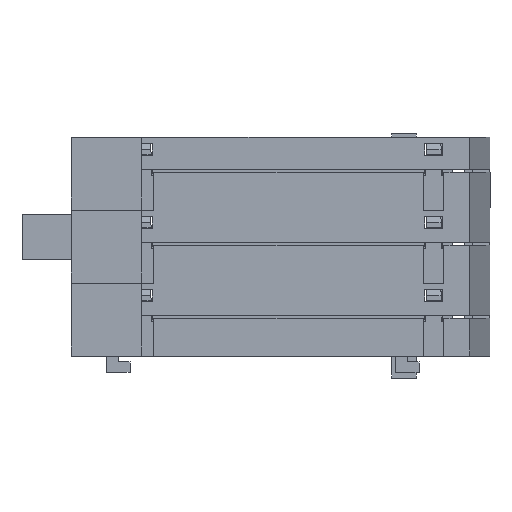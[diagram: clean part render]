
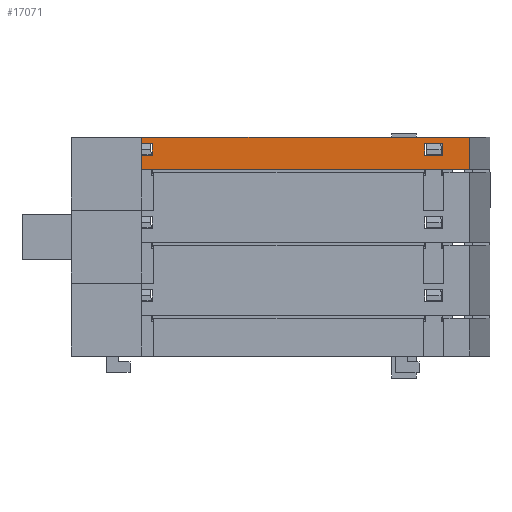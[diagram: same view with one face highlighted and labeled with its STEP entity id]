
A CAD part, left-side view. The second image highlights one B-rep face of the part: STEP entity #17071.
In plain terms, the highlighted planar face has unit normal (-1, 0, 0) as drawn and (0, -1, 0) by its records, which use the part's own axes.
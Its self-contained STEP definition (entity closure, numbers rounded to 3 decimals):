
#72 = VECTOR ( 'NONE', #6909, 1000. ) ;
#201 = VERTEX_POINT ( 'NONE', #22548 ) ;
#273 = ORIENTED_EDGE ( 'NONE', *, *, #2835, .F. ) ;
#436 = CARTESIAN_POINT ( 'NONE',  ( 5.5, 0., 0. ) ) ;
#453 = CARTESIAN_POINT ( 'NONE',  ( 2.4, 0., -10.945 ) ) ;
#1591 = LINE ( 'NONE', #11788, #22445 ) ;
#1605 = CARTESIAN_POINT ( 'NONE',  ( 2.4, 0., -7.845 ) ) ;
#1647 = DIRECTION ( 'NONE',  ( 0., 0., 1. ) ) ;
#1775 = FACE_BOUND ( 'NONE', #11099, .T. ) ;
#1786 = VECTOR ( 'NONE', #3860, 1000. ) ;
#2036 = CARTESIAN_POINT ( 'NONE',  ( 4.4, 0., -10.945 ) ) ;
#2835 = EDGE_CURVE ( 'NONE', #4581, #201, #14742, .T. ) ;
#3630 = LINE ( 'NONE', #11847, #25830 ) ;
#3632 = FACE_BOUND ( 'NONE', #7434, .T. ) ;
#3753 = DIRECTION ( 'NONE',  ( -1., 0., 0. ) ) ;
#3812 = VERTEX_POINT ( 'NONE', #17187 ) ;
#3860 = DIRECTION ( 'NONE',  ( 0., 0., -1. ) ) ;
#3877 = DIRECTION ( 'NONE',  ( 0., 0., -1. ) ) ;
#4048 = VECTOR ( 'NONE', #20723, 1000. ) ;
#4220 = EDGE_CURVE ( 'NONE', #10136, #10243, #3630, .T. ) ;
#4272 = ORIENTED_EDGE ( 'NONE', *, *, #8816, .T. ) ;
#4541 = EDGE_CURVE ( 'NONE', #3812, #18076, #1591, .T. ) ;
#4581 = VERTEX_POINT ( 'NONE', #9670 ) ;
#4764 = ORIENTED_EDGE ( 'NONE', *, *, #8782, .F. ) ;
#4816 = DIRECTION ( 'NONE',  ( 0., 0., -1. ) ) ;
#5140 = VERTEX_POINT ( 'NONE', #16245 ) ;
#5170 = ORIENTED_EDGE ( 'NONE', *, *, #17942, .T. ) ;
#5185 = DIRECTION ( 'NONE',  ( 0., 0., -1. ) ) ;
#6417 = EDGE_CURVE ( 'NONE', #16993, #25610, #23335, .T. ) ;
#6438 = VERTEX_POINT ( 'NONE', #18962 ) ;
#6687 = LINE ( 'NONE', #12923, #14234 ) ;
#6826 = LINE ( 'NONE', #22981, #4048 ) ;
#6909 = DIRECTION ( 'NONE',  ( 0., 0., 1. ) ) ;
#7372 = DIRECTION ( 'NONE',  ( -1., 0., 0. ) ) ;
#7434 = EDGE_LOOP ( 'NONE', ( #19914, #14718, #9566, #12186 ) ) ;
#7697 = AXIS2_PLACEMENT_3D ( 'NONE', #19795, #9857, #1647 ) ;
#7737 = PLANE ( 'NONE',  #7697 ) ;
#8203 = ORIENTED_EDGE ( 'NONE', *, *, #17525, .T. ) ;
#8782 = EDGE_CURVE ( 'NONE', #24200, #4581, #14914, .T. ) ;
#8816 = EDGE_CURVE ( 'NONE', #10243, #3812, #6687, .T. ) ;
#9366 = EDGE_CURVE ( 'NONE', #18076, #10136, #17518, .T. ) ;
#9370 = ORIENTED_EDGE ( 'NONE', *, *, #4541, .T. ) ;
#9566 = ORIENTED_EDGE ( 'NONE', *, *, #15833, .T. ) ;
#9670 = CARTESIAN_POINT ( 'NONE',  ( 5.5, 0., -65.25 ) ) ;
#9857 = DIRECTION ( 'NONE',  ( 0., 1., 0. ) ) ;
#9984 = EDGE_CURVE ( 'NONE', #25610, #5140, #6826, .T. ) ;
#10136 = VERTEX_POINT ( 'NONE', #13471 ) ;
#10243 = VERTEX_POINT ( 'NONE', #21196 ) ;
#11099 = EDGE_LOOP ( 'NONE', ( #20650, #4272, #9370, #14081 ) ) ;
#11357 = CARTESIAN_POINT ( 'NONE',  ( 5.5, 0., 0. ) ) ;
#11568 = CARTESIAN_POINT ( 'NONE',  ( 0., 0., 0. ) ) ;
#11751 = LINE ( 'NONE', #11357, #17032 ) ;
#11788 = CARTESIAN_POINT ( 'NONE',  ( 2.4, 0., -57.545 ) ) ;
#11847 = CARTESIAN_POINT ( 'NONE',  ( 2.4, 0., -60.645 ) ) ;
#11882 = VECTOR ( 'NONE', #3877, 1000. ) ;
#12100 = FACE_OUTER_BOUND ( 'NONE', #12683, .T. ) ;
#12105 = VECTOR ( 'NONE', #4816, 1000. ) ;
#12186 = ORIENTED_EDGE ( 'NONE', *, *, #12285, .T. ) ;
#12285 = EDGE_CURVE ( 'NONE', #14415, #16993, #12806, .T. ) ;
#12683 = EDGE_LOOP ( 'NONE', ( #8203, #273, #4764, #5170 ) ) ;
#12703 = CARTESIAN_POINT ( 'NONE',  ( 5.5, 0., 0. ) ) ;
#12806 = LINE ( 'NONE', #453, #18924 ) ;
#12923 = CARTESIAN_POINT ( 'NONE',  ( 2.4, 0., -60.645 ) ) ;
#13438 = CARTESIAN_POINT ( 'NONE',  ( 4.4, 0., -60.645 ) ) ;
#13471 = CARTESIAN_POINT ( 'NONE',  ( 4.4, 0., -60.645 ) ) ;
#13595 = LINE ( 'NONE', #23766, #11882 ) ;
#14081 = ORIENTED_EDGE ( 'NONE', *, *, #9366, .T. ) ;
#14189 = VECTOR ( 'NONE', #5185, 1000. ) ;
#14234 = VECTOR ( 'NONE', #24696, 1000. ) ;
#14357 = VECTOR ( 'NONE', #16981, 1000. ) ;
#14415 = VERTEX_POINT ( 'NONE', #2036 ) ;
#14718 = ORIENTED_EDGE ( 'NONE', *, *, #9984, .T. ) ;
#14742 = LINE ( 'NONE', #16852, #14357 ) ;
#14914 = LINE ( 'NONE', #436, #12105 ) ;
#15833 = EDGE_CURVE ( 'NONE', #5140, #14415, #13595, .T. ) ;
#16245 = CARTESIAN_POINT ( 'NONE',  ( 4.4, 0., -7.845 ) ) ;
#16637 = DIRECTION ( 'NONE',  ( -1., 0., 0. ) ) ;
#16852 = CARTESIAN_POINT ( 'NONE',  ( 5.5, 0., -65.25 ) ) ;
#16981 = DIRECTION ( 'NONE',  ( -1., 0., 0. ) ) ;
#16993 = VERTEX_POINT ( 'NONE', #24029 ) ;
#17032 = VECTOR ( 'NONE', #7372, 1000. ) ;
#17071 = ADVANCED_FACE ( 'NONE', ( #3632, #1775, #12100 ), #7737, .F. ) ;
#17187 = CARTESIAN_POINT ( 'NONE',  ( 2.4, 0., -57.545 ) ) ;
#17518 = LINE ( 'NONE', #13438, #14189 ) ;
#17525 = EDGE_CURVE ( 'NONE', #6438, #201, #25858, .T. ) ;
#17942 = EDGE_CURVE ( 'NONE', #24200, #6438, #11751, .T. ) ;
#18076 = VERTEX_POINT ( 'NONE', #20191 ) ;
#18118 = DIRECTION ( 'NONE',  ( 1., 0., 0. ) ) ;
#18924 = VECTOR ( 'NONE', #16637, 1000. ) ;
#18962 = CARTESIAN_POINT ( 'NONE',  ( 0., 0., 0. ) ) ;
#19795 = CARTESIAN_POINT ( 'NONE',  ( 5.5, 0., 0. ) ) ;
#19914 = ORIENTED_EDGE ( 'NONE', *, *, #6417, .T. ) ;
#20191 = CARTESIAN_POINT ( 'NONE',  ( 4.4, 0., -57.545 ) ) ;
#20650 = ORIENTED_EDGE ( 'NONE', *, *, #4220, .T. ) ;
#20723 = DIRECTION ( 'NONE',  ( 1., 0., 0. ) ) ;
#21196 = CARTESIAN_POINT ( 'NONE',  ( 2.4, 0., -60.645 ) ) ;
#21207 = CARTESIAN_POINT ( 'NONE',  ( 2.4, 0., -10.945 ) ) ;
#22445 = VECTOR ( 'NONE', #18118, 1000. ) ;
#22548 = CARTESIAN_POINT ( 'NONE',  ( 0., 0., -65.25 ) ) ;
#22981 = CARTESIAN_POINT ( 'NONE',  ( 2.4, 0., -7.845 ) ) ;
#23335 = LINE ( 'NONE', #21207, #72 ) ;
#23766 = CARTESIAN_POINT ( 'NONE',  ( 4.4, 0., -10.945 ) ) ;
#24029 = CARTESIAN_POINT ( 'NONE',  ( 2.4, 0., -10.945 ) ) ;
#24200 = VERTEX_POINT ( 'NONE', #12703 ) ;
#24696 = DIRECTION ( 'NONE',  ( 0., 0., 1. ) ) ;
#25610 = VERTEX_POINT ( 'NONE', #1605 ) ;
#25830 = VECTOR ( 'NONE', #3753, 1000. ) ;
#25858 = LINE ( 'NONE', #11568, #1786 ) ;
